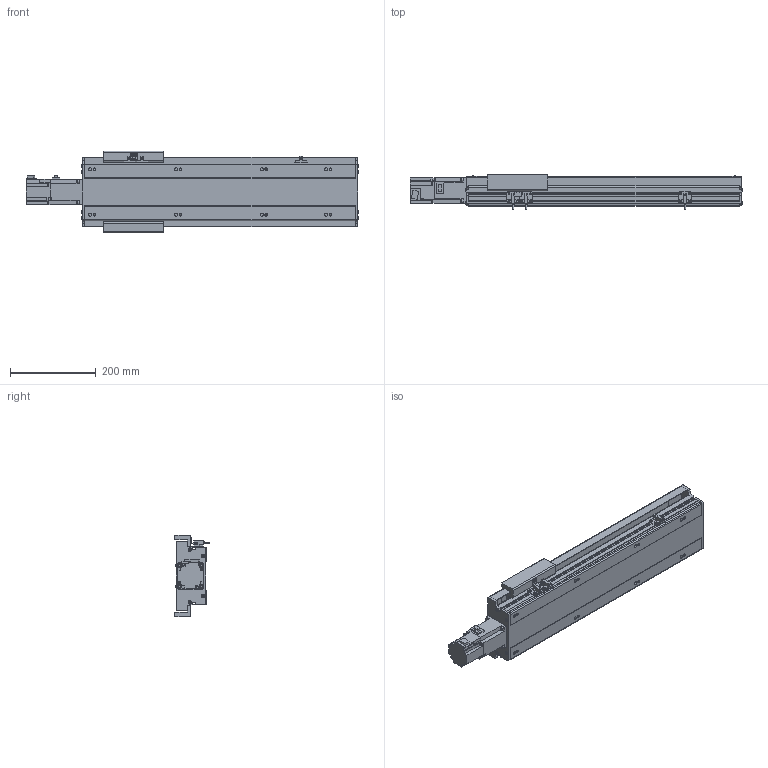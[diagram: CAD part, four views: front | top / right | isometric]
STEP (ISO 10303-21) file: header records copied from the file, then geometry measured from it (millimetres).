
FILE_DESCRIPTION(/* description */ ('STEP AP214'),/* implementation_level */ '2;1');
FILE_NAME(/* name */ 'PSM140-L10-S400-BC-T40-C1-N(0)',/* time_stamp */ '2022-06-13T03:19:04+02:00',/* author */ ('License CC BY-ND 4.0'),/* organization */ ('CADENAS'),/* preprocessor_version */ 'ST-DEVELOPER v18.102',/* originating_system */ 'PARTsolutions',/* authorisation */ ' ');
FILE_SCHEMA (('AUTOMOTIVE_DESIGN {1 0 10303 214 3 1 1}'));
Length unit declared in the file: millimetre
Products named in the file (7): PSM140-L10-S400-BC-T40-C1-N(0); PSM-Sensor; PSM140-S400-642.5; T40-p1; PSM140_body3; PSM140-S400_body1; PSM140-L10-S400-BC-T40-C1-N(0)_dummy
Assembly tree (10 placements, depth 2):
  PSM140-L10-S400-BC-T40-C1-N(0)
    PSM-Sensor  x3
    PSM140-S400-642.5  x3
    T40-p1
    PSM140_body3
    PSM140-S400_body1
    PSM140-L10-S400-BC-T40-C1-N(0)_dummy
Bounding box: 773.7 x 81.3 x 190 mm (x, y, z)
Volume: 3413615.4 mm3; surface area: 721059.6 mm2
Topology: 9 solids, 9 shells, 928 faces, 2449 edges, 1592 vertices
Faces by surface type: plane 620, cylinder 242, cone 52, torus 14
Full cylindrical faces by diameter (mm): 2.8 x3, 4.5 x12, 4.6 x3, 4.917 x16, 5.5 x7, 5.7 x6, 6 x2, 7 x16, 8 x8, 8.5 x4, 10.5 x8, 14 x1, 50 x1
Entity records: 23583 total; most frequent: CARTESIAN_POINT 4180, DIRECTION 3993, ORIENTED_EDGE 3770, EDGE_CURVE 1885, LINE 1347, VECTOR 1347, AXIS2_PLACEMENT_3D 1323, VERTEX_POINT 1314
